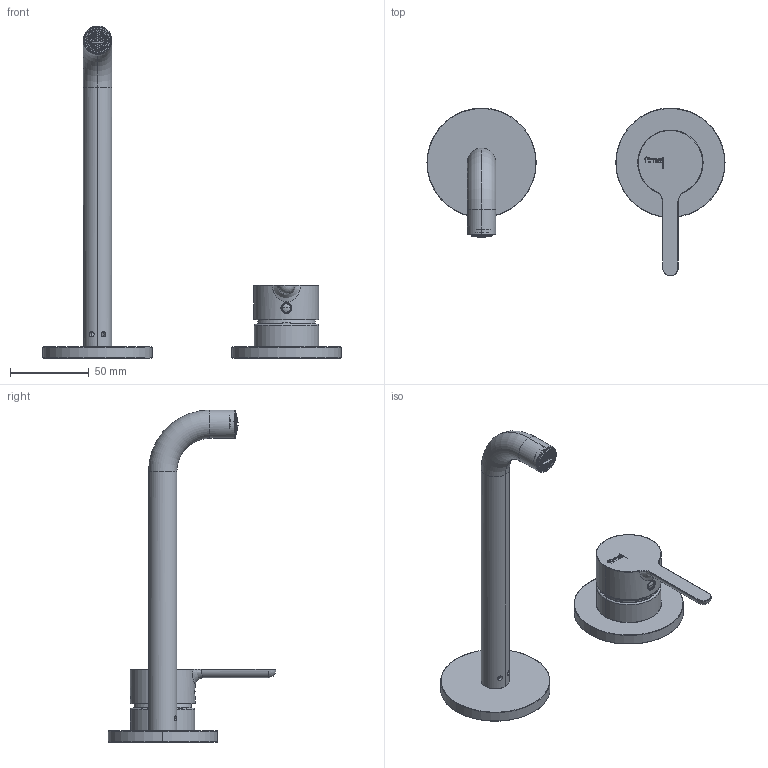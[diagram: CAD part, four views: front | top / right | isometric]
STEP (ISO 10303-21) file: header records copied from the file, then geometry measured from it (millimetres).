
FILE_DESCRIPTION((''),'2;1');
FILE_NAME('3DF_F3121WLX9','2023-12-22T14:22:42',('ivanv'),(''),'CREO PARAMETRIC BY PTC INC, 2021184','CREO PARAMETRIC BY PTC INC, 2021184','');
FILE_SCHEMA(('CONFIG_CONTROL_DESIGN'));
Products named in the file (1): 3DF_F3121WLX9
Bounding box: 189.5 x 106.75 x 211 mm (x, y, z)
Volume: 72450.4 mm3; surface area: 63368.6 mm2
Topology: 6 solids, 6 shells, 3789 faces, 10776 edges, 7133 vertices
Faces by surface type: plane 2317, torus 472, extrusion 400, cylinder 326, bspline 188, cone 59, sphere 27
Entity records: 155039 total; most frequent: CARTESIAN_POINT 63501, ORIENTED_EDGE 21522, DIRECTION 14921, EDGE_CURVE 10761, VERTEX_POINT 7133, VECTOR 5121, AXIS2_PLACEMENT_3D 4900, B_SPLINE_CURVE_WITH_KNOTS 4741
